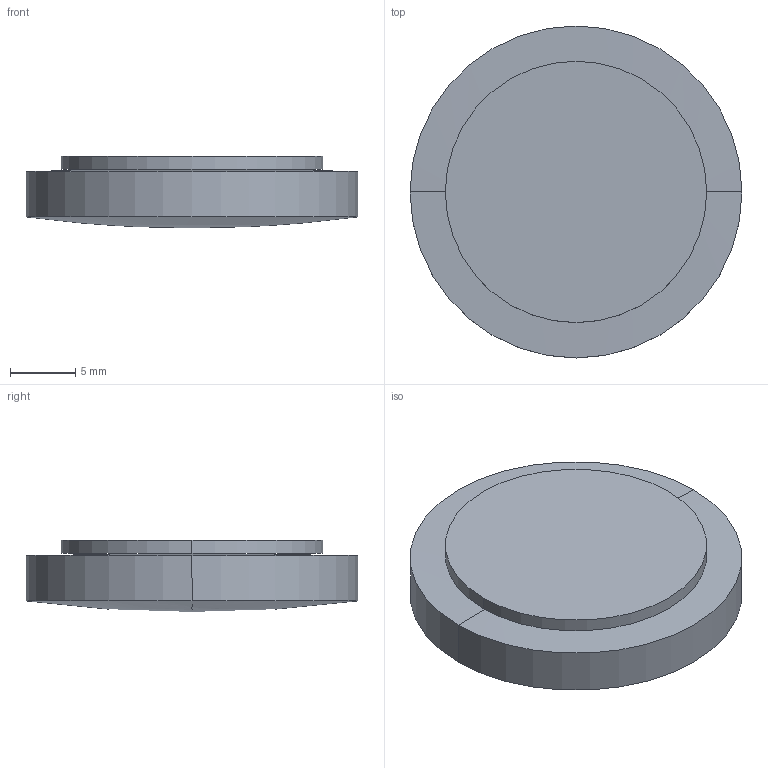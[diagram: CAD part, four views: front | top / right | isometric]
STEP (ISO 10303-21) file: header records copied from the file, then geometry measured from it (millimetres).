
FILE_DESCRIPTION(('STEP AP214'),'1');
FILE_NAME('LLR-25190.STEP','2020-03-09T17:41:58',(' '),(' '),'Spatial InterOp 3D',' ',' ');
FILE_SCHEMA(('AUTOMOTIVE_DESIGN { 1 0 10303 214 1 1 1 1 }'));
Length unit declared in the file: millimetre
Products named in the file (1): 1
Bounding box: 25.4 x 25.4 x 5.5 mm (x, y, z)
Volume: 2333.5 mm3; surface area: 1983.7 mm2
Topology: 2 solids, 2 shells, 10 faces, 20 edges, 10 vertices
Faces by surface type: sphere 4, cylinder 4, plane 2
Entity records: 255 total; most frequent: DIRECTION 52, CARTESIAN_POINT 38, ORIENTED_EDGE 32, AXIS2_PLACEMENT_3D 24, EDGE_CURVE 16, CIRCLE 12, ADVANCED_FACE 10, FACE_OUTER_BOUND 10
